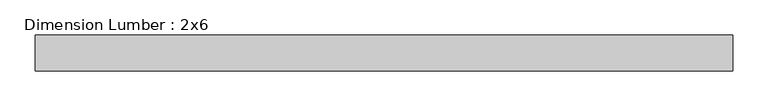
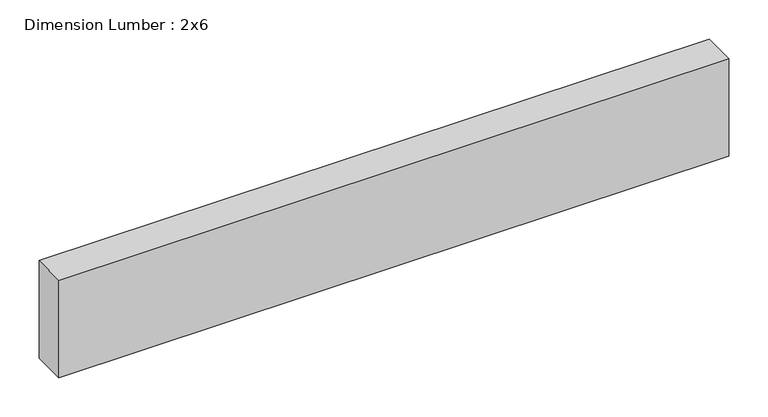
"""IFC4 building model written with IfcOpenShell, lengths in millimetres: beam geometry, Dimension Lumber : 2x6."""

from ifc_helpers import new_model, si_unit, frame, origin, place, context, project, spatial, polyline, outline, extrude, source, transform, mapped, element, save


def dimension_lumber_2x6_a6130f63(model_context):
    return source(origin(), model_context, "Body", "SweptSolid", [
        extrude(outline(polyline([(507.3235307, 25.4), (507.3235307, -25.4), (-482.61, -25.4), (-482.61, 25.4), (507.3235307, 25.4)])), frame((0.0, 0.0, -76.2), z_axis=(0.0, 0.0, 1.0), x_axis=(1.0, 0.0, 0.0)), (0.0, 0.0, 1.0), 152.4),
    ])


if __name__ == "__main__":
    model = new_model("IFC4")
    model_context = context("Model", 3, world=origin())
    ifc_project = project(units=[si_unit("LENGTHUNIT", "METRE", prefix="MILLI")], contexts=[model_context])
    site = spatial("IfcSite", under=ifc_project)
    building = spatial("IfcBuilding", under=site)
    placement = place(None, origin())
    dimension_lumber_2x6_shape = dimension_lumber_2x6_a6130f63(model_context)
    element("IfcBeam", 1, ObjectType="Dimension Lumber : 2x6", at=placement, inside=building, context=model_context, shape_type="MappedRepresentation", body=[
        mapped(dimension_lumber_2x6_shape, transform((0.0, 0.0, 0.0), x_axis=(1.0, 0.0, 0.0), y_axis=(0.0, 1.0, 0.0), z_axis=(0.0, 0.0, 1.0))),
    ])
    save(model, "model.ifc")
